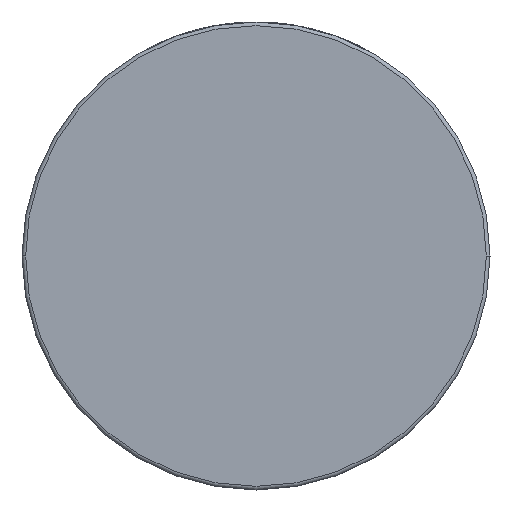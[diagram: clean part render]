
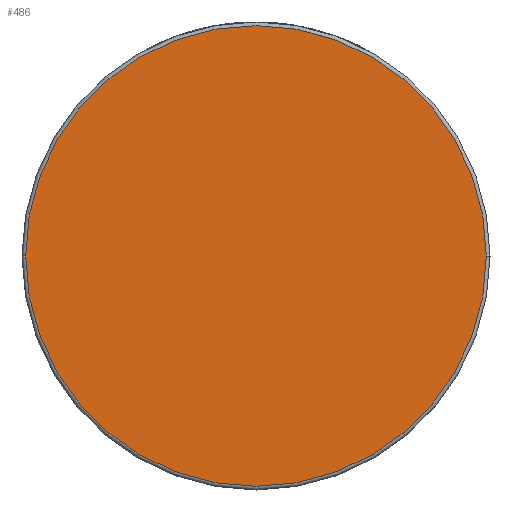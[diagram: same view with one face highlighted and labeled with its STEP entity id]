
A CAD part, front view. The second image highlights one B-rep face of the part: STEP entity #486.
In plain terms, the highlighted planar face has unit normal (0, -1, 0).
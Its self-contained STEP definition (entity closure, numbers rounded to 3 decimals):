
#68 = EDGE_CURVE ( 'NONE', #2691, #3545, #459, .T. ) ;
#128 = CARTESIAN_POINT ( 'NONE',  ( 0., -33., 0. ) ) ;
#356 = CARTESIAN_POINT ( 'NONE',  ( 0., -33., 0. ) ) ;
#393 = EDGE_LOOP ( 'NONE', ( #3825, #3230 ) ) ;
#459 = CIRCLE ( 'NONE', #3013, 63. ) ;
#486 = ADVANCED_FACE ( 'NONE', ( #3249 ), #1853, .T. ) ;
#604 = CIRCLE ( 'NONE', #1626, 63. ) ;
#723 = DIRECTION ( 'NONE',  ( 1., 0., 0. ) ) ;
#752 = DIRECTION ( 'NONE',  ( 1., 0., 0. ) ) ;
#1218 = DIRECTION ( 'NONE',  ( 1., 0., 0. ) ) ;
#1286 = EDGE_CURVE ( 'NONE', #3545, #2691, #604, .T. ) ;
#1516 = DIRECTION ( 'NONE',  ( 0., -1., 0. ) ) ;
#1551 = AXIS2_PLACEMENT_3D ( 'NONE', #3225, #2169, #752 ) ;
#1626 = AXIS2_PLACEMENT_3D ( 'NONE', #356, #3218, #723 ) ;
#1853 = PLANE ( 'NONE',  #1551 ) ;
#2007 = CARTESIAN_POINT ( 'NONE',  ( 63., -33., 0. ) ) ;
#2169 = DIRECTION ( 'NONE',  ( 0., -1., 0. ) ) ;
#2691 = VERTEX_POINT ( 'NONE', #2007 ) ;
#3013 = AXIS2_PLACEMENT_3D ( 'NONE', #128, #1516, #1218 ) ;
#3218 = DIRECTION ( 'NONE',  ( 0., -1., 0. ) ) ;
#3225 = CARTESIAN_POINT ( 'NONE',  ( 64., -33., 0. ) ) ;
#3230 = ORIENTED_EDGE ( 'NONE', *, *, #1286, .T. ) ;
#3231 = CARTESIAN_POINT ( 'NONE',  ( -63., -33., 0. ) ) ;
#3249 = FACE_OUTER_BOUND ( 'NONE', #393, .T. ) ;
#3545 = VERTEX_POINT ( 'NONE', #3231 ) ;
#3825 = ORIENTED_EDGE ( 'NONE', *, *, #68, .T. ) ;
